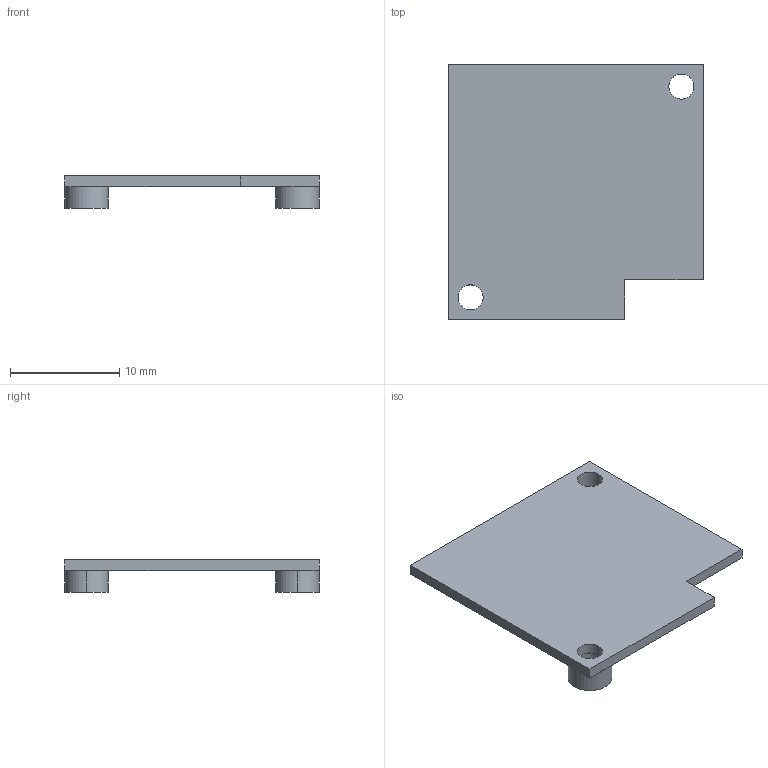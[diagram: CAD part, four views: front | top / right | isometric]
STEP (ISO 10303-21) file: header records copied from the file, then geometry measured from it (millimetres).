
FILE_DESCRIPTION (( 'STEP AP214' ), '1' );
FILE_NAME ('Back Plate.STEP', '2016-04-20T22:09:04', ( 'Mark' ), ( 'Project-OS.org' ), 'SwSTEP 2.0', 'SolidWorks 2015', '' );
FILE_SCHEMA (( 'AUTOMOTIVE_DESIGN' ));
Length unit declared in the file: millimetre
Products named in the file (1): Back Plate
Bounding box: 23.3 x 23.3 x 3 mm (x, y, z)
Volume: 542.6 mm3; surface area: 1204.5 mm2
Topology: 1 solids, 1 shells, 23 faces, 54 edges, 34 vertices
Faces by surface type: plane 13, cylinder 10
Entity records: 704 total; most frequent: DIRECTION 124, CARTESIAN_POINT 112, ORIENTED_EDGE 108, EDGE_CURVE 54, AXIS2_PLACEMENT_3D 46, VERTEX_POINT 34, VECTOR 32, LINE 32
